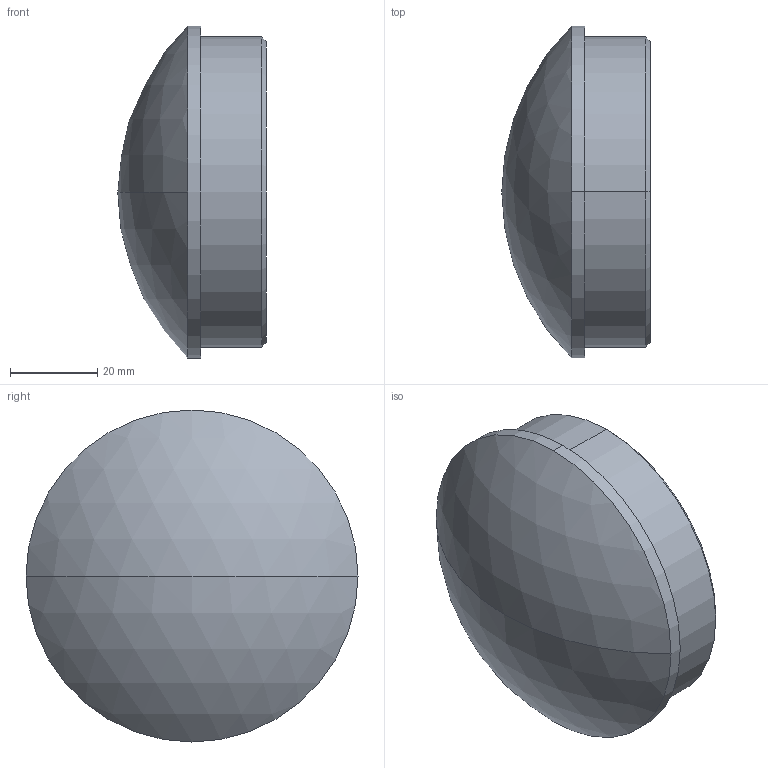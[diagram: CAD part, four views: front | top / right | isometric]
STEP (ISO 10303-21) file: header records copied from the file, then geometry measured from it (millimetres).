
FILE_DESCRIPTION (( 'STEP AP203' ), '1' );
FILE_NAME ('3D_GR1392_DN76.1x2.5_18380286.STEP', '2024-09-21T10:28:57', ( '' ), ( '' ), 'SwSTEP 2.0', 'SolidWorks 2024', '' );
FILE_SCHEMA (( 'CONFIG_CONTROL_DESIGN' ));
Length unit declared in the file: millimetre
Products named in the file (1): 3D_GR1392_DN76.1x2.5_18380286
Bounding box: 34 x 76.1 x 76.1 mm (x, y, z)
Volume: 111621.8 mm3; surface area: 13836.6 mm2
Topology: 1 solids, 1 shells, 10 faces, 20 edges, 13 vertices
Faces by surface type: cylinder 4, cone 2, sphere 2, plane 2
Entity records: 347 total; most frequent: DIRECTION 56, CARTESIAN_POINT 44, ORIENTED_EDGE 40, AXIS2_PLACEMENT_3D 25, EDGE_CURVE 20, CIRCLE 14, VERTEX_POINT 13, EDGE_LOOP 11
